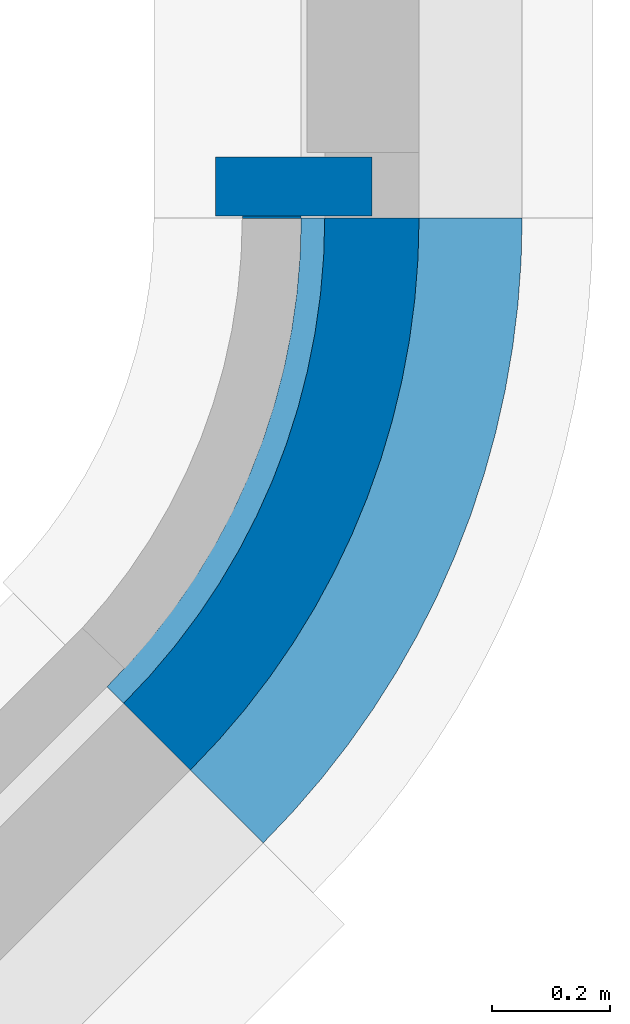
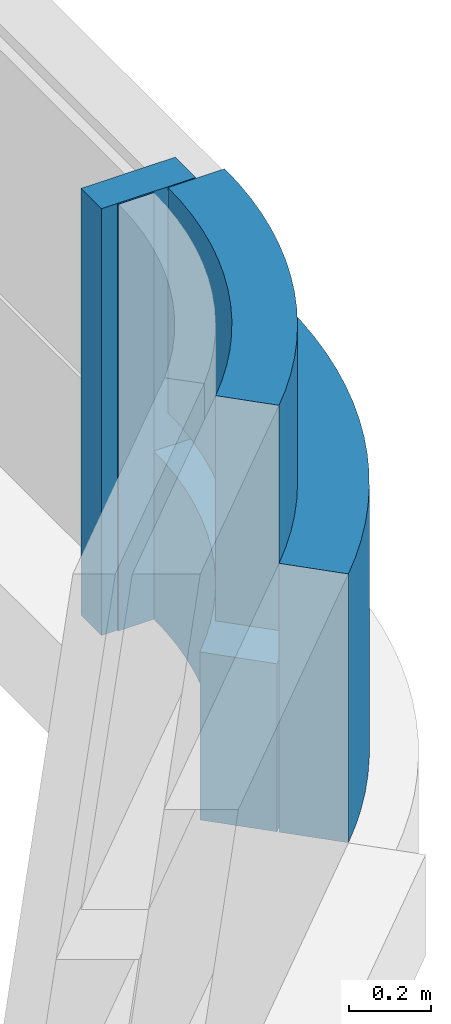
# One storey, part 3 of 15: 5 walls.
"""IFC2X3 building model written with IfcOpenShell, lengths in millimetres."""

import ifcopenshell
import ifcopenshell.guid

model = None  # the IFC model being written
_history = None  # IfcOwnerHistory: only IFC2X3 demands one
_inside = {}  # id of a spatial element -> (the spatial element, [elements in it])
_under = {}  # id of a project, library or spatial element -> (it, [spatial elements below it])
_declared = {}  # id of a project -> (the project, [libraries it declares])
_typed = {}  # id of a type object -> (the type object, [elements of that type])
_made_of = {}  # id of a material, layer set ... -> (it, [elements and type objects made of it])


def new_model(schema):
    """Start an empty IFC model of exactly this schema.

    Asked for "IFC4X3", IfcOpenShell would pick the latest addendum, in which some entities
    have other attributes; the version numbers below select the first issue.
    IFC2X3 requires an IfcOwnerHistory on every rooted entity: one is made here for all.
    """
    global model, _history
    if schema == "IFC4X3":
        model = ifcopenshell.file(schema_version=(4, 3, 0, 0))
    else:
        model = ifcopenshell.file(schema=schema)
    _inside.clear()
    _under.clear()
    _declared.clear()
    _typed.clear()
    _made_of.clear()
    _history = None
    if model.schema == "IFC2X3":
        org = make("IfcOrganization", Name="unknown")
        user = make(
            "IfcPersonAndOrganization",
            ThePerson=make("IfcPerson", FamilyName="unknown"),
            TheOrganization=org,
        )
        app = make(
            "IfcApplication",
            ApplicationDeveloper=org,
            Version="unknown",
            ApplicationFullName="unknown",
            ApplicationIdentifier="unknown",
        )
        _history = make(
            "IfcOwnerHistory",
            OwningUser=user,
            OwningApplication=app,
            ChangeAction="ADDED",
            CreationDate=0,
        )
    return model


def make(cls, **values):
    """One entity of the class cls with the attributes given. An attribute that is None is left unset."""
    return model.create_entity(
        cls, **{name: value for name, value in values.items() if value is not None}
    )


def entity(cls, *values):
    """Any entity or typed value of the class cls, its attributes in the order of the schema. None: left unset."""
    e = model.create_entity(cls)
    for i, value in enumerate(values):
        if value is not None:
            e[i] = value
    return e


def rooted(cls, **values):
    """An entity with a GlobalId (a new one), such as an element, a storey or a relation."""
    return make(cls, GlobalId=ifcopenshell.guid.new(), OwnerHistory=_history, **values)


def si_unit(unit_type, name, prefix=None):
    """IfcSIUnit, for example si_unit("LENGTHUNIT", "METRE", prefix="MILLI")."""
    return make("IfcSIUnit", UnitType=unit_type, Prefix=prefix, Name=name)


def converted_unit(unit_type, name, factor, base, dimensions=None, offset=None):
    """IfcConversionBasedUnit, such as the inch: factor (a typed value) times the base unit."""
    return make(
        "IfcConversionBasedUnit"
        if offset is None
        else "IfcConversionBasedUnitWithOffset",
        ConversionOffset=offset,
        Dimensions=None
        if dimensions is None
        else entity("IfcDimensionalExponents", *dimensions),
        UnitType=unit_type,
        Name=name,
        ConversionFactor=make(
            "IfcMeasureWithUnit", ValueComponent=factor, UnitComponent=base
        ),
    )


def derived_unit(unit_type, elements):
    """IfcDerivedUnit: a product of units, each with its exponent."""
    return make(
        "IfcDerivedUnit",
        Elements=[
            make("IfcDerivedUnitElement", Unit=unit, Exponent=power)
            for unit, power in elements
        ],
        UnitType=unit_type,
    )


def assignment(units):
    """IfcUnitAssignment: the units of a project."""
    return None if units is None else make("IfcUnitAssignment", Units=units)


def point(xyz):
    """IfcCartesianPoint."""
    return None if xyz is None else make("IfcCartesianPoint", Coordinates=xyz)


def direction(xyz):
    """IfcDirection."""
    return None if xyz is None else make("IfcDirection", DirectionRatios=xyz)


def frame(location, z_axis=None, x_axis=None):
    """IfcAxis2Placement3D, a coordinate frame: its origin and axes. An axis left out is left unset."""
    return make(
        "IfcAxis2Placement3D",
        Location=point(location),
        Axis=direction(z_axis),
        RefDirection=direction(x_axis),
    )


def frame_2d(location, x_axis=None):
    """IfcAxis2Placement2D, a coordinate frame in the plane: its origin and x axis."""
    return make(
        "IfcAxis2Placement2D", Location=point(location), RefDirection=direction(x_axis)
    )


def origin():
    """The frame at (0, 0, 0) with its axes left unset."""
    return frame((0.0, 0.0, 0.0))


def place(relative_to, where):
    """IfcLocalPlacement: puts the frame where relative to a parent placement (None: the world)."""
    return make(
        "IfcLocalPlacement", PlacementRelTo=relative_to, RelativePlacement=where
    )


def context(
    kind, dimensions, precision=None, world=None, true_north=None, identifier=None
):
    """IfcGeometricRepresentationContext, for example the 3D "Model" context."""
    return make(
        "IfcGeometricRepresentationContext",
        ContextIdentifier=identifier,
        ContextType=kind,
        CoordinateSpaceDimension=dimensions,
        Precision=precision,
        WorldCoordinateSystem=world,
        TrueNorth=true_north,
    )


def subcontext(parent, identifier, kind, view, scale=None):
    """IfcGeometricRepresentationSubContext, for example "Body" below "Model"."""
    return make(
        "IfcGeometricRepresentationSubContext",
        ContextIdentifier=identifier,
        ContextType=kind,
        ParentContext=parent,
        TargetScale=scale,
        TargetView=view,
    )


def project(units=None, contexts=None):
    """IfcProject with its units and contexts."""
    return rooted(
        "IfcProject",
        Name="project",
        RepresentationContexts=contexts,
        UnitsInContext=assignment(units),
    )


def spatial(cls, under=None, at=None, **own):
    """A site, building, storey or space (cls), placed at a placement, below another one or the project."""
    s = rooted(cls, ObjectPlacement=at, **own)
    if under is not None:
        _under.setdefault(under.id(), (under, []))[1].append(s)
    return s


def polyline(points):
    """IfcPolyline through the points."""
    return make("IfcPolyline", Points=[point(p) for p in points])


def circle_curve(where, radius):
    """IfcCircle in the frame where."""
    return make("IfcCircle", Position=where, Radius=radius)


def parameter(value):
    """IfcParameterValue: where a trimmed curve begins or ends, as a parameter of its basis curve."""
    return model.create_entity("IfcParameterValue", value)


def trimmed(basis, trim1, trim2, sense, master):
    """IfcTrimmedCurve: the piece of a basis curve between two trims."""
    return make(
        "IfcTrimmedCurve",
        BasisCurve=basis,
        Trim1=trim1,
        Trim2=trim2,
        SenseAgreement=sense,
        MasterRepresentation=master,
    )


def segment(curve, same_sense, transition):
    """IfcCompositeCurveSegment."""
    return make(
        "IfcCompositeCurveSegment",
        Transition=transition,
        SameSense=same_sense,
        ParentCurve=curve,
    )


def composite_curve(segments, self_intersect=None):
    """IfcCompositeCurve: segments joined end to end."""
    return make("IfcCompositeCurve", Segments=segments, SelfIntersect=self_intersect)


def profile(cls, at=None, kind="AREA", **sizes):
    """A parametric profile (cls). Its sizes go by their IFC names, for example OverallWidth=200.0."""
    return make(cls, ProfileType=kind, Position=at, **sizes)


def rectangle(**sizes):
    """IfcRectangleProfileDef."""
    return profile("IfcRectangleProfileDef", **sizes)


def outline(outer, holes=None, kind="AREA"):
    """IfcArbitraryClosedProfileDef: a profile drawn as a closed curve; with holes, ...WithVoids."""
    if holes is None:
        return make("IfcArbitraryClosedProfileDef", ProfileType=kind, OuterCurve=outer)
    return make(
        "IfcArbitraryProfileDefWithVoids",
        ProfileType=kind,
        OuterCurve=outer,
        InnerCurves=holes,
    )


def extrude(swept, where, along, depth):
    """IfcExtrudedAreaSolid: the profile swept, set in the frame where, extruded along a direction by depth."""
    return make(
        "IfcExtrudedAreaSolid",
        SweptArea=swept,
        Position=where,
        ExtrudedDirection=direction(along),
        Depth=depth,
    )


def shape(context_of_items, identifier, shape_type, items):
    """IfcShapeRepresentation: the items that make up one representation, for example the "Body"."""
    return make(
        "IfcShapeRepresentation",
        ContextOfItems=context_of_items,
        RepresentationIdentifier=identifier,
        RepresentationType=shape_type,
        Items=items,
    )


def material(Name=None, Category=None):
    """IfcMaterial."""
    return make("IfcMaterial", Name=Name, Category=Category)


def layer(
    of_material, thickness, ventilated=None, Name=None, Category=None, Priority=None
):
    """IfcMaterialLayer: one layer of a wall or slab, of a material (None: an air gap)."""
    return make(
        "IfcMaterialLayer",
        Material=of_material,
        LayerThickness=thickness,
        IsVentilated=ventilated,
        Name=Name,
        Category=Category,
        Priority=Priority,
    )


def layer_set(layers, Name=None):
    """IfcMaterialLayerSet."""
    return make("IfcMaterialLayerSet", MaterialLayers=layers, LayerSetName=Name)


def layer_usage(for_layer_set, set_direction, sense, offset, extent=None):
    """IfcMaterialLayerSetUsage: how a layer set lies in its element."""
    return make(
        "IfcMaterialLayerSetUsage",
        ForLayerSet=for_layer_set,
        LayerSetDirection=set_direction,
        DirectionSense=sense,
        OffsetFromReferenceLine=offset,
        ReferenceExtent=extent,
    )


def made_of(thing, what):
    """Note that an element or type object is made of a material, layer set ...; save() writes the relation."""
    if what is not None:
        _made_of.setdefault(what.id(), (what, []))[1].append(thing)
    return thing


def type_object(cls, material=None, **own):
    """A type object (cls), such as IfcWallType, which elements share."""
    return made_of(rooted(cls, **own), material)


def element(
    cls,
    number,
    at=None,
    inside=None,
    cuts=None,
    type_object=None,
    material=None,
    context=None,
    identifier="Body",
    shape_type=None,
    held_by="IfcProductDefinitionShape",
    body=None,
    shapes=None,
    **own,
):
    """One element of the class cls, such as IfcWall. Its Tag is "e" and its number.

    at: its placement. inside: the storey or other place that contains it. cuts: it is an
    opening in that element (IfcRelVoidsElement). A single representation is given by context,
    identifier, shape_type and body (its items); several are given by shapes. held_by: the class
    of the entity that holds the representations. save() writes the other relations.
    """
    e = rooted(cls, Tag="e%d" % number, ObjectPlacement=at, **own)
    if body is not None:
        shapes = [shape(context, identifier, shape_type, body)]
    if shapes is not None:
        e.Representation = make(held_by, Representations=shapes)
    if inside is not None:
        _inside.setdefault(inside.id(), (inside, []))[1].append(e)
    if cuts is not None:
        rooted(
            "IfcRelVoidsElement", RelatingBuildingElement=cuts, RelatedOpeningElement=e
        )
    if type_object is not None:
        _typed.setdefault(type_object.id(), (type_object, []))[1].append(e)
    return made_of(e, material)


def aggregate(whole, parts):
    """IfcRelAggregates: a whole, such as a stair, and the parts it consists of."""
    return rooted("IfcRelAggregates", RelatingObject=whole, RelatedObjects=parts)


def save(model, path):
    """Write the relations noted so far, then the file.

    IfcRelAggregates (storeys below a building ...), IfcRelContainedInSpatialStructure (elements
    in a storey), IfcRelDefinesByType, IfcRelAssociatesMaterial and IfcRelDeclares: one each for
    every whole, place, type object, material and project.
    """
    for whole, parts in _under.values():
        aggregate(whole, parts)
    for where, things in _inside.values():
        rooted(
            "IfcRelContainedInSpatialStructure",
            RelatedElements=things,
            RelatingStructure=where,
        )
    for kind, things in _typed.values():
        rooted("IfcRelDefinesByType", RelatedObjects=things, RelatingType=kind)
    for what, things in _made_of.values():
        rooted("IfcRelAssociatesMaterial", RelatedObjects=things, RelatingMaterial=what)
    for by, libraries in _declared.values():
        rooted("IfcRelDeclares", RelatingContext=by, RelatedDefinitions=libraries)
    model.write(path)


model = new_model("IFC2X3")

# Units and contexts
model_context = context("Model", 3, precision=0.01, world=origin(), true_north=direction((6.123031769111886e-17, 1.0)))
body_context = subcontext(model_context, "Body", "Model", "MODEL_VIEW")
ifc_project = project(units=[si_unit("LENGTHUNIT", "METRE", prefix="MILLI"), si_unit("AREAUNIT", "SQUARE_METRE"), si_unit("VOLUMEUNIT", "CUBIC_METRE"), converted_unit("PLANEANGLEUNIT", "DEGREE", entity("IfcRatioMeasure", 0.017453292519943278), si_unit("PLANEANGLEUNIT", "RADIAN"), dimensions=[0, 0, 0, 0, 0, 0, 0]), si_unit("MASSUNIT", "GRAM", prefix="KILO"), derived_unit("MASSDENSITYUNIT", [(si_unit("MASSUNIT", "GRAM", prefix="KILO"), 1), (si_unit("LENGTHUNIT", "METRE"), -3)]), derived_unit("IONCONCENTRATIONUNIT", [(si_unit("MASSUNIT", "GRAM", prefix="KILO"), 1), (si_unit("LENGTHUNIT", "METRE"), -3)]), derived_unit("MOMENTOFINERTIAUNIT", [(si_unit("LENGTHUNIT", "METRE"), 4)]), si_unit("TIMEUNIT", "SECOND"), si_unit("FREQUENCYUNIT", "HERTZ"), si_unit("THERMODYNAMICTEMPERATUREUNIT", "DEGREE_CELSIUS"), derived_unit("THERMALTRANSMITTANCEUNIT", [(si_unit("MASSUNIT", "GRAM", prefix="KILO"), 1), (si_unit("THERMODYNAMICTEMPERATUREUNIT", "KELVIN"), -1), (si_unit("TIMEUNIT", "SECOND"), -3)]), derived_unit("THERMALCONDUCTANCEUNIT", [(si_unit("MASSUNIT", "GRAM", prefix="KILO"), 1), (si_unit("THERMODYNAMICTEMPERATUREUNIT", "KELVIN"), -1), (si_unit("TIMEUNIT", "SECOND"), -3), (si_unit("LENGTHUNIT", "METRE"), 1)]), derived_unit("VOLUMETRICFLOWRATEUNIT", [(si_unit("LENGTHUNIT", "METRE"), 3), (si_unit("TIMEUNIT", "SECOND"), -1)]), derived_unit("MASSFLOWRATEUNIT", [(si_unit("MASSUNIT", "GRAM", prefix="KILO"), 1), (si_unit("TIMEUNIT", "SECOND"), -1)]), derived_unit("ROTATIONALFREQUENCYUNIT", [(si_unit("TIMEUNIT", "SECOND"), -1)]), si_unit("ELECTRICCURRENTUNIT", "AMPERE"), si_unit("ELECTRICVOLTAGEUNIT", "VOLT"), si_unit("POWERUNIT", "WATT"), si_unit("FORCEUNIT", "NEWTON", prefix="KILO"), si_unit("ILLUMINANCEUNIT", "LUX"), si_unit("LUMINOUSFLUXUNIT", "LUMEN"), si_unit("LUMINOUSINTENSITYUNIT", "CANDELA"), derived_unit("USERDEFINED", [(si_unit("MASSUNIT", "GRAM", prefix="KILO"), -1), (si_unit("LENGTHUNIT", "METRE"), -2), (si_unit("TIMEUNIT", "SECOND"), 3), (si_unit("LUMINOUSFLUXUNIT", "LUMEN"), 1)]), derived_unit("USERDEFINED", [(si_unit("MASSUNIT", "GRAM", prefix="KILO"), 1), (si_unit("TIMEUNIT", "SECOND"), -3), (si_unit("LENGTHUNIT", "METRE"), 3), (si_unit("ELECTRICCURRENTUNIT", "AMPERE"), -2)]), derived_unit("SOUNDPOWERUNIT", [(si_unit("MASSUNIT", "GRAM", prefix="KILO"), 1), (si_unit("TIMEUNIT", "SECOND"), -3), (si_unit("LENGTHUNIT", "METRE"), 2)]), derived_unit("SOUNDPRESSUREUNIT", [(si_unit("MASSUNIT", "GRAM", prefix="KILO"), 1), (si_unit("LENGTHUNIT", "METRE"), -1), (si_unit("TIMEUNIT", "SECOND"), -2)]), derived_unit("LINEARVELOCITYUNIT", [(si_unit("LENGTHUNIT", "METRE"), 1), (si_unit("TIMEUNIT", "SECOND"), -1)]), si_unit("PRESSUREUNIT", "PASCAL"), derived_unit("USERDEFINED", [(si_unit("MASSUNIT", "GRAM", prefix="KILO"), 1), (si_unit("LENGTHUNIT", "METRE"), -2), (si_unit("TIMEUNIT", "SECOND"), -2)]), derived_unit("LINEARFORCEUNIT", [(si_unit("MASSUNIT", "GRAM", prefix="KILO"), 1), (si_unit("TIMEUNIT", "SECOND"), -2)]), derived_unit("PLANARFORCEUNIT", [(si_unit("MASSUNIT", "GRAM", prefix="KILO"), 1), (si_unit("LENGTHUNIT", "METRE"), -1), (si_unit("TIMEUNIT", "SECOND"), -2)]), derived_unit("SPECIFICHEATCAPACITYUNIT", [(si_unit("THERMODYNAMICTEMPERATUREUNIT", "KELVIN"), -1), (si_unit("LENGTHUNIT", "METRE"), 2), (si_unit("TIMEUNIT", "SECOND"), -2)]), derived_unit("HEATINGVALUEUNIT", [(si_unit("LENGTHUNIT", "METRE"), 2), (si_unit("TIMEUNIT", "SECOND"), -2)]), derived_unit("VAPORPERMEABILITYUNIT", [(si_unit("LENGTHUNIT", "METRE"), -1), (si_unit("TIMEUNIT", "SECOND"), 1)]), derived_unit("DYNAMICVISCOSITYUNIT", [(si_unit("MASSUNIT", "GRAM", prefix="KILO"), 1), (si_unit("TIMEUNIT", "SECOND"), -1), (si_unit("LENGTHUNIT", "METRE"), -1)]), derived_unit("THERMALEXPANSIONCOEFFICIENTUNIT", [(si_unit("THERMODYNAMICTEMPERATUREUNIT", "KELVIN"), -1)]), derived_unit("MODULUSOFELASTICITYUNIT", [(si_unit("MASSUNIT", "GRAM", prefix="KILO"), 1), (si_unit("LENGTHUNIT", "METRE"), -1), (si_unit("TIMEUNIT", "SECOND"), -2)]), derived_unit("ISOTHERMALMOISTURECAPACITYUNIT", [(si_unit("LENGTHUNIT", "METRE"), 3), (si_unit("MASSUNIT", "GRAM", prefix="KILO"), -1)]), derived_unit("MOISTUREDIFFUSIVITYUNIT", [(si_unit("TIMEUNIT", "SECOND"), -1), (si_unit("LENGTHUNIT", "METRE"), 2)])], contexts=[model_context])

# Site, building, storey
site_placement = place(None, frame((0.0, 300.0, 0.0)))
site = spatial("IfcSite", under=ifc_project, at=site_placement, Name="<Kadastrale nummers>", CompositionType="ELEMENT")
building_placement = place(site_placement, origin())
building = spatial("IfcBuilding", under=site, at=building_placement, CompositionType="ELEMENT")
storey_placement = place(building_placement, frame((0.0, 0.0, -1570.0)))
storey = spatial("IfcBuildingStorey", under=building, at=storey_placement, Name="-1 fundering", CompositionType="ELEMENT", Elevation=-1570.0)

# Walls
ifc_material_1 = material(Name="ISR_Metselwerk")
ifc_layer_1 = layer(ifc_material_1, 100.0)
ifc_layer_set_1 = layer_set([ifc_layer_1], Name="Basic Wall:21_DAT_metselwerk_100")
ifc_layer_usage_1 = layer_usage(ifc_layer_set_1, "AXIS2", "NEGATIVE", 50.0)
wall_type_1 = type_object("IfcWallType", Name="Basic Wall:21_DAT_metselwerk_100", PredefinedType="STANDARD", material=ifc_layer_set_1)
wall_1_placement = place(storey_placement, frame((31475.036916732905, 33910.71375200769, 299.99997543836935), z_axis=(0.0, 0.0, 1.0), x_axis=(0.0, 1.0, 0.0)))
element("IfcWallStandardCase", 1, at=wall_1_placement, inside=storey, type_object=wall_type_1, material=ifc_layer_usage_1, Name="Basic Wall:21_DAT_metselwerk_100", ObjectType="Basic Wall:21_DAT_metselwerk_100", context=body_context, shape_type="SweptSolid", body=[
    extrude(rectangle(XDim=4.286247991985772, YDim=100.00000000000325, at=frame_2d((2.143123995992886, 0.0), x_axis=(-1.0, 0.0))), origin(), (0.0, 0.0, 1.0), 1270.000024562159),
])
wall_2_placement = place(storey_placement, frame((31380.0, 33965.0, 300.0)))
element("IfcWallStandardCase", 2, at=wall_2_placement, inside=storey, type_object=wall_type_1, material=ifc_layer_usage_1, Name="Basic Wall:21_DAT_metselwerk_100", ObjectType="Basic Wall:21_DAT_metselwerk_100", context=body_context, shape_type="SweptSolid", body=[
    extrude(rectangle(XDim=264.9999999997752, YDim=100.00000000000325, at=frame_2d((132.4999999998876, 5.577760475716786e-13), x_axis=(-1.0, 0.0))), origin(), (0.0, 0.0, 1.0), 1270.0000000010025),
])
ifc_material_2 = material(Name="ISR_Gips")
ifc_layer_2 = layer(ifc_material_2, 1.0)
ifc_material_3 = material(Name="ISR_Kalkzandsteen")
ifc_layer_3 = layer(ifc_material_3, 173.0)
ifc_layer_4 = layer(ifc_material_2, 1.0)
ifc_layer_set_2 = layer_set([ifc_layer_2, ifc_layer_3, ifc_layer_4], Name="Basic Wall:28_DAT_kalkzandsteen_175mm")
ifc_layer_usage_2 = layer_usage(ifc_layer_set_2, "AXIS2", "NEGATIVE", 87.49999999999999)
wall_type_2 = type_object("IfcWallType", Name="Basic Wall:28_DAT_kalkzandsteen_175mm", PredefinedType="STANDARD", material=ifc_layer_set_2)
wall_3_placement = place(storey_placement, frame((31398.825245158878, 32913.11484050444, 300.0)))
element("IfcWallStandardCase", 3, at=wall_3_placement, inside=storey, type_object=wall_type_2, material=ifc_layer_usage_2, Name="Basic Wall:28_DAT_kalkzandsteen_175mm", ObjectType="Basic Wall:28_DAT_kalkzandsteen_175mm", context=body_context, shape_type="SweptSolid", body=[
    extrude(outline(composite_curve([segment(trimmed(circle_curve(frame_2d((-998.7883284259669, 998.788328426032), x_axis=(1.0, 0.0)), 1325.0), [parameter(314.9999999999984)], [parameter(359.99999999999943)], True, "PARAMETER"), False, "CONTINUOUS"), segment(polyline([(-61.87184335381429, 61.87184335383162), (61.871843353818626, -61.87184335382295)]), True, "CONTINUOUS"), segment(trimmed(circle_curve(frame_2d((-998.7883284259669, 998.788328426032), x_axis=(1.0, 0.0)), 1499.9999999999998), [parameter(314.9999999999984)], [parameter(359.99999999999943)], True, "PARAMETER"), True, "CONTINUOUS"), segment(polyline([(501.2116715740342, 998.7883284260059), (326.211671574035, 998.7883284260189)]), True, "CONTINUOUS")], self_intersect=False)), origin(), (0.0, 0.0, 1.0), 800.0000000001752),
])
ifc_material_4 = material(Name="ISR_Isolatie")
ifc_layer_5 = layer(ifc_material_4, 160.0)
ifc_layer_set_3 = layer_set([ifc_layer_5], Name="Basic Wall:21_DAT_isolatie minerale wol_160")
ifc_layer_usage_3 = layer_usage(ifc_layer_set_3, "AXIS2", "NEGATIVE", 80.0)
wall_type_3 = type_object("IfcWallType", Name="Basic Wall:21_DAT_isolatie minerale wol_160", PredefinedType="STANDARD", material=ifc_layer_set_3)
wall_4_placement = place(storey_placement, frame((31280.384859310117, 33031.55522635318, 900.0)))
element("IfcWallStandardCase", 4, at=wall_4_placement, inside=storey, type_object=wall_type_3, material=ifc_layer_usage_3, Name="Basic Wall:21_DAT_isolatie minerale wol_160", ObjectType="Basic Wall:21_DAT_isolatie minerale wol_160", context=body_context, shape_type="SweptSolid", body=[
    extrude(outline(composite_curve([segment(trimmed(circle_curve(frame_2d((-880.3479425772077, 880.3479425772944), x_axis=(1.0, 0.0)), 1165.0), [parameter(314.9999999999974)], [parameter(359.9999999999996)], True, "PARAMETER"), False, "CONTINUOUS"), segment(polyline([(-56.56854249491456, 56.56854249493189), (56.568542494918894, -56.568542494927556)]), True, "CONTINUOUS"), segment(trimmed(circle_curve(frame_2d((-880.3479425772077, 880.3479425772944), x_axis=(1.0, 0.0)), 1324.9999999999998), [parameter(314.9999999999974)], [parameter(359.9999999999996)], True, "PARAMETER"), True, "CONTINUOUS"), segment(polyline([(444.6520574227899, 880.3479425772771), (284.6520574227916, 880.3479425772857)]), True, "CONTINUOUS")], self_intersect=False)), origin(), (0.0, 0.0, 1.0), 670.0000000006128),
])
ifc_material_5 = material(Name="ISR_Speci ihwg(1)")
ifc_layer_6 = layer(ifc_material_5, 195.0)
ifc_layer_set_4 = layer_set([ifc_layer_6], Name="Basic Wall:28_DAT_ihw specie")
ifc_layer_usage_4 = layer_usage(ifc_layer_set_4, "AXIS2", "NEGATIVE", 97.5)
wall_type_4 = type_object("IfcWallType", Name="Basic Wall:28_DAT_ihw specie", PredefinedType="STANDARD", material=ifc_layer_set_4)
wall_5_placement = place(storey_placement, frame((31264.474956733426, 33047.46512892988, 300.0)))
element("IfcWallStandardCase", 5, at=wall_5_placement, inside=storey, type_object=wall_type_4, material=ifc_layer_usage_4, Name="Basic Wall:28_DAT_ihw specie", ObjectType="Basic Wall:28_DAT_ihw specie", context=body_context, shape_type="SweptSolid", body=[
    extrude(outline(composite_curve([segment(trimmed(circle_curve(frame_2d((-864.4380400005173, 864.438040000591), x_axis=(1.0, 0.0)), 1125.0), [parameter(314.99999999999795)], [parameter(359.99999999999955)], True, "PARAMETER"), False, "CONTINUOUS"), segment(polyline([(-68.94291116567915, 68.94291116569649), (68.94291116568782, -68.94291116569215)]), True, "CONTINUOUS"), segment(trimmed(circle_curve(frame_2d((-864.4380400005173, 864.438040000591), x_axis=(1.0, 0.0)), 1320.0000000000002), [parameter(314.99999999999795)], [parameter(359.99999999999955)], True, "PARAMETER"), True, "CONTINUOUS"), segment(polyline([(455.56195999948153, 864.4380400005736), (260.56195999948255, 864.4380400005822)]), True, "CONTINUOUS")], self_intersect=False)), origin(), (0.0, 0.0, 1.0), 500.00000000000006),
])

save(model, "model.ifc")
